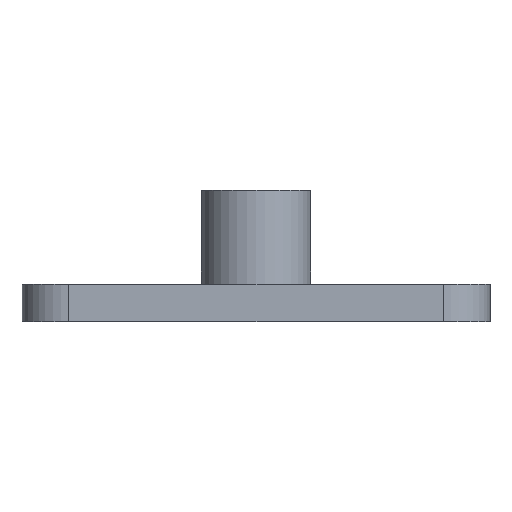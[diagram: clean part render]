
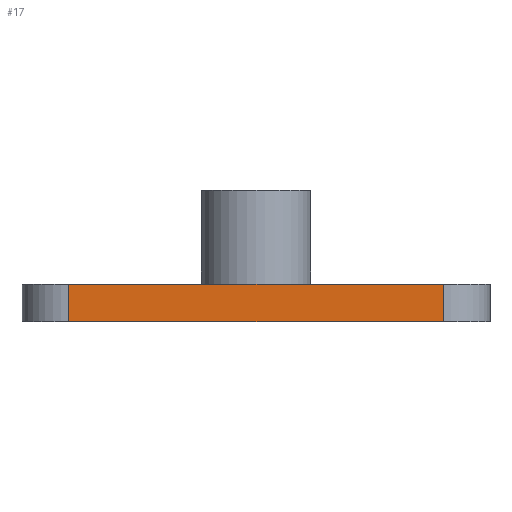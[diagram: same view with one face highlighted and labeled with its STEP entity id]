
A CAD part, left-side view. The second image highlights one B-rep face of the part: STEP entity #17.
In plain terms, the highlighted planar face has unit normal (-1, 0, 0).
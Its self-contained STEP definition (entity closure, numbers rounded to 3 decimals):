
#17 = ADVANCED_FACE('',(#18),#32,.F.);
#18 = FACE_BOUND('',#19,.F.);
#19 = EDGE_LOOP('',(#20,#55,#83,#111));
#20 = ORIENTED_EDGE('',*,*,#21,.F.);
#21 = EDGE_CURVE('',#22,#24,#26,.T.);
#22 = VERTEX_POINT('',#23);
#23 = CARTESIAN_POINT('',(0.,3.,2.4));
#24 = VERTEX_POINT('',#25);
#25 = CARTESIAN_POINT('',(0.,27.,2.4));
#26 = SURFACE_CURVE('',#27,(#31,#43),.PCURVE_S1.);
#27 = LINE('',#28,#29);
#28 = CARTESIAN_POINT('',(0.,0.,2.4));
#29 = VECTOR('',#30,1.);
#30 = DIRECTION('',(0.,1.,0.));
#31 = PCURVE('',#32,#37);
#32 = PLANE('',#33);
#33 = AXIS2_PLACEMENT_3D('',#34,#35,#36);
#34 = CARTESIAN_POINT('',(0.,0.,0.));
#35 = DIRECTION('',(1.,0.,0.));
#36 = DIRECTION('',(0.,0.,1.));
#37 = DEFINITIONAL_REPRESENTATION('',(#38),#42);
#38 = LINE('',#39,#40);
#39 = CARTESIAN_POINT('',(2.4,0.));
#40 = VECTOR('',#41,1.);
#41 = DIRECTION('',(0.,-1.));
#42 = ( GEOMETRIC_REPRESENTATION_CONTEXT(2) 
PARAMETRIC_REPRESENTATION_CONTEXT() REPRESENTATION_CONTEXT('2D SPACE',''
  ) );
#43 = PCURVE('',#44,#49);
#44 = PLANE('',#45);
#45 = AXIS2_PLACEMENT_3D('',#46,#47,#48);
#46 = CARTESIAN_POINT('',(0.,0.,2.4));
#47 = DIRECTION('',(0.,0.,1.));
#48 = DIRECTION('',(1.,0.,0.));
#49 = DEFINITIONAL_REPRESENTATION('',(#50),#54);
#50 = LINE('',#51,#52);
#51 = CARTESIAN_POINT('',(0.,0.));
#52 = VECTOR('',#53,1.);
#53 = DIRECTION('',(0.,1.));
#54 = ( GEOMETRIC_REPRESENTATION_CONTEXT(2) 
PARAMETRIC_REPRESENTATION_CONTEXT() REPRESENTATION_CONTEXT('2D SPACE',''
  ) );
#55 = ORIENTED_EDGE('',*,*,#56,.F.);
#56 = EDGE_CURVE('',#57,#22,#59,.T.);
#57 = VERTEX_POINT('',#58);
#58 = CARTESIAN_POINT('',(0.,3.,0.));
#59 = SURFACE_CURVE('',#60,(#64,#71),.PCURVE_S1.);
#60 = LINE('',#61,#62);
#61 = CARTESIAN_POINT('',(0.,3.,0.));
#62 = VECTOR('',#63,1.);
#63 = DIRECTION('',(0.,0.,1.));
#64 = PCURVE('',#32,#65);
#65 = DEFINITIONAL_REPRESENTATION('',(#66),#70);
#66 = LINE('',#67,#68);
#67 = CARTESIAN_POINT('',(0.,-3.));
#68 = VECTOR('',#69,1.);
#69 = DIRECTION('',(1.,0.));
#70 = ( GEOMETRIC_REPRESENTATION_CONTEXT(2) 
PARAMETRIC_REPRESENTATION_CONTEXT() REPRESENTATION_CONTEXT('2D SPACE',''
  ) );
#71 = PCURVE('',#72,#77);
#72 = CYLINDRICAL_SURFACE('',#73,3.);
#73 = AXIS2_PLACEMENT_3D('',#74,#75,#76);
#74 = CARTESIAN_POINT('',(3.,3.,0.));
#75 = DIRECTION('',(0.,0.,1.));
#76 = DIRECTION('',(-1.,-0.,0.));
#77 = DEFINITIONAL_REPRESENTATION('',(#78),#82);
#78 = LINE('',#79,#80);
#79 = CARTESIAN_POINT('',(0.,0.));
#80 = VECTOR('',#81,1.);
#81 = DIRECTION('',(0.,1.));
#82 = ( GEOMETRIC_REPRESENTATION_CONTEXT(2) 
PARAMETRIC_REPRESENTATION_CONTEXT() REPRESENTATION_CONTEXT('2D SPACE',''
  ) );
#83 = ORIENTED_EDGE('',*,*,#84,.T.);
#84 = EDGE_CURVE('',#57,#85,#87,.T.);
#85 = VERTEX_POINT('',#86);
#86 = CARTESIAN_POINT('',(0.,27.,0.));
#87 = SURFACE_CURVE('',#88,(#92,#99),.PCURVE_S1.);
#88 = LINE('',#89,#90);
#89 = CARTESIAN_POINT('',(0.,0.,0.));
#90 = VECTOR('',#91,1.);
#91 = DIRECTION('',(0.,1.,0.));
#92 = PCURVE('',#32,#93);
#93 = DEFINITIONAL_REPRESENTATION('',(#94),#98);
#94 = LINE('',#95,#96);
#95 = CARTESIAN_POINT('',(0.,0.));
#96 = VECTOR('',#97,1.);
#97 = DIRECTION('',(0.,-1.));
#98 = ( GEOMETRIC_REPRESENTATION_CONTEXT(2) 
PARAMETRIC_REPRESENTATION_CONTEXT() REPRESENTATION_CONTEXT('2D SPACE',''
  ) );
#99 = PCURVE('',#100,#105);
#100 = PLANE('',#101);
#101 = AXIS2_PLACEMENT_3D('',#102,#103,#104);
#102 = CARTESIAN_POINT('',(0.,0.,0.));
#103 = DIRECTION('',(0.,0.,1.));
#104 = DIRECTION('',(1.,0.,0.));
#105 = DEFINITIONAL_REPRESENTATION('',(#106),#110);
#106 = LINE('',#107,#108);
#107 = CARTESIAN_POINT('',(0.,0.));
#108 = VECTOR('',#109,1.);
#109 = DIRECTION('',(0.,1.));
#110 = ( GEOMETRIC_REPRESENTATION_CONTEXT(2) 
PARAMETRIC_REPRESENTATION_CONTEXT() REPRESENTATION_CONTEXT('2D SPACE',''
  ) );
#111 = ORIENTED_EDGE('',*,*,#112,.T.);
#112 = EDGE_CURVE('',#85,#24,#113,.T.);
#113 = SURFACE_CURVE('',#114,(#118,#125),.PCURVE_S1.);
#114 = LINE('',#115,#116);
#115 = CARTESIAN_POINT('',(0.,27.,0.));
#116 = VECTOR('',#117,1.);
#117 = DIRECTION('',(0.,0.,1.));
#118 = PCURVE('',#32,#119);
#119 = DEFINITIONAL_REPRESENTATION('',(#120),#124);
#120 = LINE('',#121,#122);
#121 = CARTESIAN_POINT('',(0.,-27.));
#122 = VECTOR('',#123,1.);
#123 = DIRECTION('',(1.,0.));
#124 = ( GEOMETRIC_REPRESENTATION_CONTEXT(2) 
PARAMETRIC_REPRESENTATION_CONTEXT() REPRESENTATION_CONTEXT('2D SPACE',''
  ) );
#125 = PCURVE('',#126,#131);
#126 = CYLINDRICAL_SURFACE('',#127,3.);
#127 = AXIS2_PLACEMENT_3D('',#128,#129,#130);
#128 = CARTESIAN_POINT('',(3.,27.,0.));
#129 = DIRECTION('',(0.,0.,1.));
#130 = DIRECTION('',(-1.,-0.,0.));
#131 = DEFINITIONAL_REPRESENTATION('',(#132),#136);
#132 = LINE('',#133,#134);
#133 = CARTESIAN_POINT('',(-0.,0.));
#134 = VECTOR('',#135,1.);
#135 = DIRECTION('',(-0.,1.));
#136 = ( GEOMETRIC_REPRESENTATION_CONTEXT(2) 
PARAMETRIC_REPRESENTATION_CONTEXT() REPRESENTATION_CONTEXT('2D SPACE',''
  ) );
